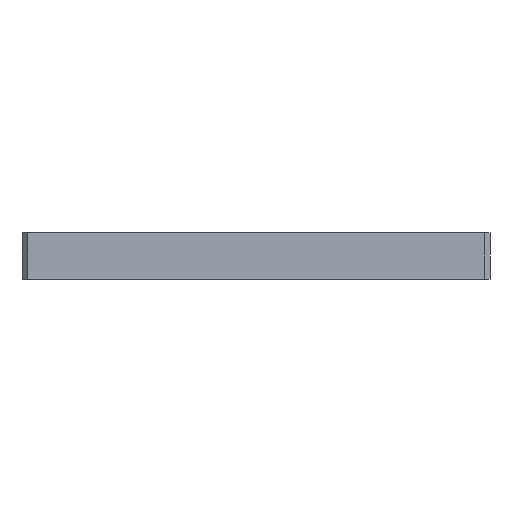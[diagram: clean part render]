
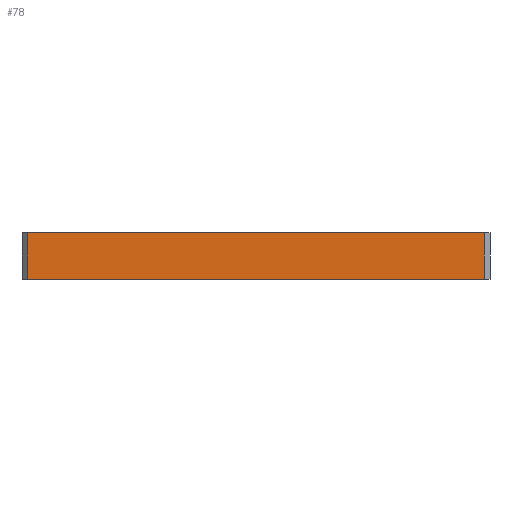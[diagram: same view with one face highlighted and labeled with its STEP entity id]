
A CAD part, left-side view. The second image highlights one B-rep face of the part: STEP entity #78.
In plain terms, the highlighted planar face has unit normal (-1, 0, 0).
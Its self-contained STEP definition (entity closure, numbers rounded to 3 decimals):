
#78 = ADVANCED_FACE( '', ( #127 ), #128, .T. );
#127 = FACE_OUTER_BOUND( '', #236, .T. );
#128 = PLANE( '', #237 );
#236 = EDGE_LOOP( '', ( #361, #362, #363, #364 ) );
#237 = AXIS2_PLACEMENT_3D( '', #365, #366, #367 );
#361 = ORIENTED_EDGE( '', *, *, #536, .T. );
#362 = ORIENTED_EDGE( '', *, *, #559, .T. );
#363 = ORIENTED_EDGE( '', *, *, #560, .T. );
#364 = ORIENTED_EDGE( '', *, *, #558, .T. );
#365 = CARTESIAN_POINT( '', ( -40., 0., -4. ) );
#366 = DIRECTION( '', ( -1., 0., 0. ) );
#367 = DIRECTION( '', ( 0., 0., 1. ) );
#536 = EDGE_CURVE( '', #597, #595, #598, .T. );
#558 = EDGE_CURVE( '', #637, #597, #640, .T. );
#559 = EDGE_CURVE( '', #595, #641, #642, .T. );
#560 = EDGE_CURVE( '', #641, #637, #643, .T. );
#595 = VERTEX_POINT( '', #704 );
#597 = VERTEX_POINT( '', #707 );
#598 = LINE( '', #708, #709 );
#637 = VERTEX_POINT( '', #753 );
#640 = LINE( '', #758, #759 );
#641 = VERTEX_POINT( '', #760 );
#642 = LINE( '', #761, #762 );
#643 = LINE( '', #763, #764 );
#704 = CARTESIAN_POINT( '', ( -40., 39., 4. ) );
#707 = CARTESIAN_POINT( '', ( -40., -39., 4. ) );
#708 = CARTESIAN_POINT( '', ( -40., 0., 4. ) );
#709 = VECTOR( '', #834, 1000. );
#753 = CARTESIAN_POINT( '', ( -40., -39., -4. ) );
#758 = CARTESIAN_POINT( '', ( -40., -39., -4. ) );
#759 = VECTOR( '', #884, 1000. );
#760 = CARTESIAN_POINT( '', ( -40., 39., -4. ) );
#761 = CARTESIAN_POINT( '', ( -40., 39., -4. ) );
#762 = VECTOR( '', #885, 1000. );
#763 = CARTESIAN_POINT( '', ( -40., 0., -4. ) );
#764 = VECTOR( '', #886, 1000. );
#834 = DIRECTION( '', ( 0., 1., 0. ) );
#884 = DIRECTION( '', ( 0., 0., 1. ) );
#885 = DIRECTION( '', ( 0., 0., -1. ) );
#886 = DIRECTION( '', ( 0., -1., 0. ) );
